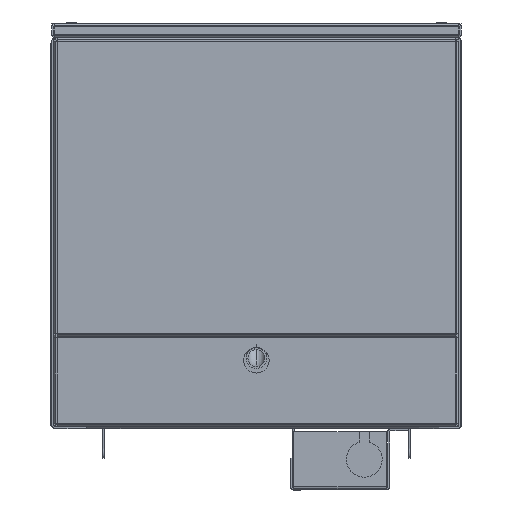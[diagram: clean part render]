
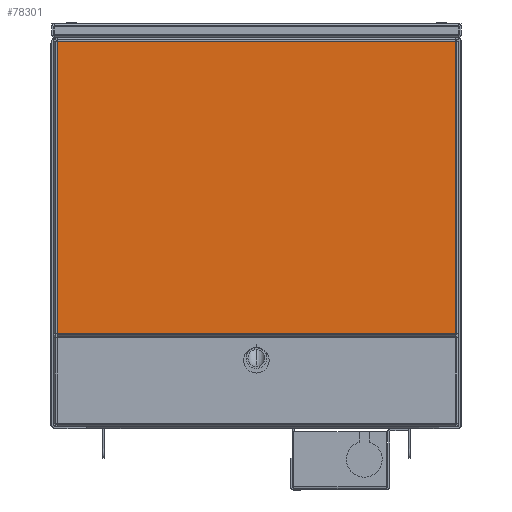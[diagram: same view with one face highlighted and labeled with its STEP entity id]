
A CAD part, front view. The second image highlights one B-rep face of the part: STEP entity #78301.
In plain terms, the highlighted planar face has unit normal (0, -1, 0).
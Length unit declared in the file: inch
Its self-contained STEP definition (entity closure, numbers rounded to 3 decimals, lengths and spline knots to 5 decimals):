
#62 = VERTEX_POINT ( 'NONE', #93002 ) ;
#1191 = EDGE_CURVE ( 'NONE', #41203, #15360, #56461, .T. ) ;
#2292 = EDGE_CURVE ( 'NONE', #15517, #35649, #38733, .T. ) ;
#3000 = PLANE ( 'NONE',  #67275 ) ;
#4477 = VECTOR ( 'NONE', #64152, 39.37008 ) ;
#10165 = ORIENTED_EDGE ( 'NONE', *, *, #25251, .F. ) ;
#11063 = DIRECTION ( 'NONE',  ( 0., 1., 0. ) ) ;
#11542 = VECTOR ( 'NONE', #36483, 39.37008 ) ;
#13226 = CARTESIAN_POINT ( 'NONE',  ( 4.87, -0.048, -3.57 ) ) ;
#13337 = ORIENTED_EDGE ( 'NONE', *, *, #87736, .F. ) ;
#13403 = CARTESIAN_POINT ( 'NONE',  ( 4.87, -0.048, 3.57 ) ) ;
#15360 = VERTEX_POINT ( 'NONE', #29901 ) ;
#15517 = VERTEX_POINT ( 'NONE', #63054 ) ;
#17443 = CARTESIAN_POINT ( 'NONE',  ( 4.872, -0.048, -3.57 ) ) ;
#17543 = VECTOR ( 'NONE', #82718, 39.37008 ) ;
#17645 = CARTESIAN_POINT ( 'NONE',  ( -4.87, -0.048, -3.57 ) ) ;
#18311 = VECTOR ( 'NONE', #84596, 39.37008 ) ;
#18700 = VECTOR ( 'NONE', #100521, 39.37008 ) ;
#22107 = EDGE_CURVE ( 'NONE', #87911, #95766, #68147, .T. ) ;
#22486 = CARTESIAN_POINT ( 'NONE',  ( -4.872, -0.048, 3.57 ) ) ;
#23217 = CARTESIAN_POINT ( 'NONE',  ( -4.95, -0.048, -3.57 ) ) ;
#24356 = CARTESIAN_POINT ( 'NONE',  ( 4.872, -0.048, -3.57 ) ) ;
#24377 = CARTESIAN_POINT ( 'NONE',  ( -4.87, -0.048, -3.57 ) ) ;
#24983 = CARTESIAN_POINT ( 'NONE',  ( 4.87, -0.048, 3.572 ) ) ;
#25251 = EDGE_CURVE ( 'NONE', #15517, #41203, #58247, .T. ) ;
#25592 = VERTEX_POINT ( 'NONE', #96555 ) ;
#27949 = ORIENTED_EDGE ( 'NONE', *, *, #65367, .F. ) ;
#28624 = CARTESIAN_POINT ( 'NONE',  ( -4.872, -0.048, -3.57 ) ) ;
#28821 = CARTESIAN_POINT ( 'NONE',  ( -4.87, -0.048, 3.57 ) ) ;
#29762 = VERTEX_POINT ( 'NONE', #36500 ) ;
#29901 = CARTESIAN_POINT ( 'NONE',  ( -4.87, -0.048, 3.572 ) ) ;
#30108 = VECTOR ( 'NONE', #83116, 39.37008 ) ;
#30581 = DIRECTION ( 'NONE',  ( -1., 0., 0. ) ) ;
#32306 = CARTESIAN_POINT ( 'NONE',  ( -4.87, -0.048, 3.57 ) ) ;
#32966 = LINE ( 'NONE', #17645, #94096 ) ;
#33000 = DIRECTION ( 'NONE',  ( -1., 0., 0. ) ) ;
#33343 = ORIENTED_EDGE ( 'NONE', *, *, #50610, .T. ) ;
#33660 = DIRECTION ( 'NONE',  ( 0., 0., 1. ) ) ;
#34928 = ORIENTED_EDGE ( 'NONE', *, *, #2292, .T. ) ;
#35649 = VERTEX_POINT ( 'NONE', #28624 ) ;
#36483 = DIRECTION ( 'NONE',  ( 0., 0., 1. ) ) ;
#36500 = CARTESIAN_POINT ( 'NONE',  ( 4.87, -0.048, 3.572 ) ) ;
#37149 = LINE ( 'NONE', #13226, #77110 ) ;
#37370 = VECTOR ( 'NONE', #30581, 39.37008 ) ;
#38733 = LINE ( 'NONE', #22486, #17543 ) ;
#38824 = CARTESIAN_POINT ( 'NONE',  ( 4.872, -0.048, 3.57 ) ) ;
#40620 = EDGE_CURVE ( 'NONE', #59224, #95766, #101001, .T. ) ;
#41203 = VERTEX_POINT ( 'NONE', #32306 ) ;
#42253 = ORIENTED_EDGE ( 'NONE', *, *, #1191, .F. ) ;
#44069 = VERTEX_POINT ( 'NONE', #75282 ) ;
#45397 = LINE ( 'NONE', #94881, #61671 ) ;
#49494 = VERTEX_POINT ( 'NONE', #24377 ) ;
#49645 = ORIENTED_EDGE ( 'NONE', *, *, #89168, .T. ) ;
#50610 = EDGE_CURVE ( 'NONE', #29762, #15360, #82263, .T. ) ;
#54009 = ORIENTED_EDGE ( 'NONE', *, *, #99982, .F. ) ;
#54887 = LINE ( 'NONE', #72425, #73585 ) ;
#56461 = LINE ( 'NONE', #94062, #11542 ) ;
#56562 = FACE_OUTER_BOUND ( 'NONE', #88315, .T. ) ;
#58247 = LINE ( 'NONE', #28821, #18311 ) ;
#59224 = VERTEX_POINT ( 'NONE', #67676 ) ;
#61069 = VECTOR ( 'NONE', #33000, 39.37008 ) ;
#61671 = VECTOR ( 'NONE', #86851, 39.37008 ) ;
#62503 = EDGE_CURVE ( 'NONE', #87911, #62, #37149, .T. ) ;
#63054 = CARTESIAN_POINT ( 'NONE',  ( -4.872, -0.048, 3.57 ) ) ;
#64152 = DIRECTION ( 'NONE',  ( 0., 0., 1. ) ) ;
#65367 = EDGE_CURVE ( 'NONE', #49494, #35649, #100996, .T. ) ;
#66861 = DIRECTION ( 'NONE',  ( 0., 0., 1. ) ) ;
#67275 = AXIS2_PLACEMENT_3D ( 'NONE', #90517, #11063, #66861 ) ;
#67676 = CARTESIAN_POINT ( 'NONE',  ( 4.87, -0.048, 3.57 ) ) ;
#68111 = ORIENTED_EDGE ( 'NONE', *, *, #22107, .T. ) ;
#68147 = LINE ( 'NONE', #24356, #4477 ) ;
#72425 = CARTESIAN_POINT ( 'NONE',  ( 4.87, -0.048, -3.65 ) ) ;
#73585 = VECTOR ( 'NONE', #80408, 39.37008 ) ;
#75104 = CARTESIAN_POINT ( 'NONE',  ( -4.87, -0.048, -3.572 ) ) ;
#75282 = CARTESIAN_POINT ( 'NONE',  ( -4.87, -0.048, -3.572 ) ) ;
#77110 = VECTOR ( 'NONE', #85382, 39.37008 ) ;
#78301 = ADVANCED_FACE ( 'NONE', ( #56562 ), #3000, .F. ) ;
#80408 = DIRECTION ( 'NONE',  ( 0., 0., -1. ) ) ;
#82263 = LINE ( 'NONE', #24983, #61069 ) ;
#82718 = DIRECTION ( 'NONE',  ( 0., 0., -1. ) ) ;
#83116 = DIRECTION ( 'NONE',  ( 1., 0., 0. ) ) ;
#84596 = DIRECTION ( 'NONE',  ( 1., 0., 0. ) ) ;
#85382 = DIRECTION ( 'NONE',  ( -1., 0., 0. ) ) ;
#86541 = ORIENTED_EDGE ( 'NONE', *, *, #62503, .F. ) ;
#86851 = DIRECTION ( 'NONE',  ( 0., 0., -1. ) ) ;
#87736 = EDGE_CURVE ( 'NONE', #29762, #59224, #45397, .T. ) ;
#87911 = VERTEX_POINT ( 'NONE', #17443 ) ;
#88315 = EDGE_LOOP ( 'NONE', ( #49645, #95371, #86541, #68111, #91534, #13337, #33343, #42253, #10165, #34928, #27949, #54009 ) ) ;
#89168 = EDGE_CURVE ( 'NONE', #44069, #25592, #93737, .T. ) ;
#90517 = CARTESIAN_POINT ( 'NONE',  ( -4.87, -0.048, -3.57 ) ) ;
#91041 = EDGE_CURVE ( 'NONE', #62, #25592, #54887, .T. ) ;
#91534 = ORIENTED_EDGE ( 'NONE', *, *, #40620, .F. ) ;
#93002 = CARTESIAN_POINT ( 'NONE',  ( 4.87, -0.048, -3.57 ) ) ;
#93737 = LINE ( 'NONE', #75104, #30108 ) ;
#94062 = CARTESIAN_POINT ( 'NONE',  ( -4.87, -0.048, 3.65 ) ) ;
#94096 = VECTOR ( 'NONE', #33660, 39.37008 ) ;
#94881 = CARTESIAN_POINT ( 'NONE',  ( 4.87, -0.048, 3.65 ) ) ;
#95371 = ORIENTED_EDGE ( 'NONE', *, *, #91041, .F. ) ;
#95766 = VERTEX_POINT ( 'NONE', #38824 ) ;
#96555 = CARTESIAN_POINT ( 'NONE',  ( 4.87, -0.048, -3.572 ) ) ;
#99982 = EDGE_CURVE ( 'NONE', #44069, #49494, #32966, .T. ) ;
#100521 = DIRECTION ( 'NONE',  ( 1., 0., 0. ) ) ;
#100996 = LINE ( 'NONE', #23217, #37370 ) ;
#101001 = LINE ( 'NONE', #13403, #18700 ) ;
